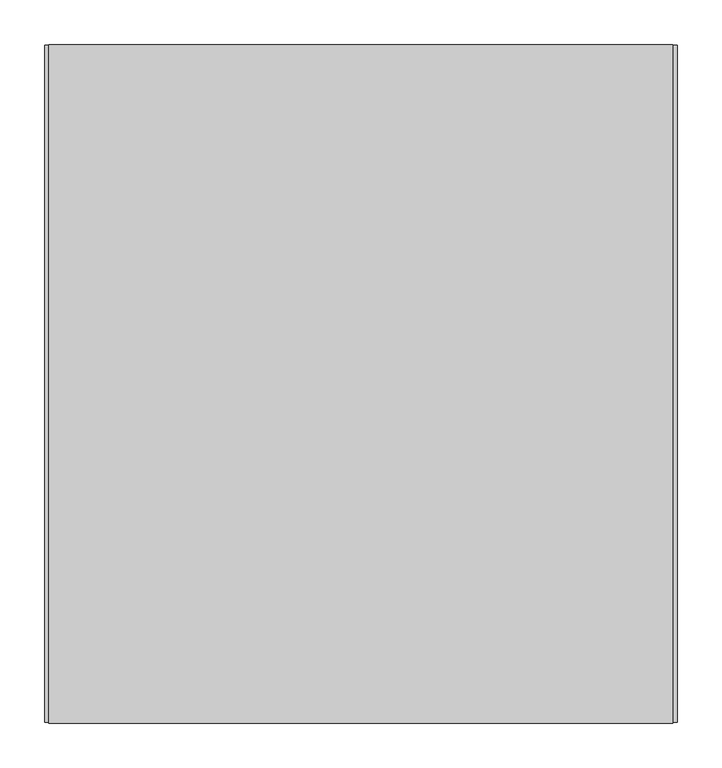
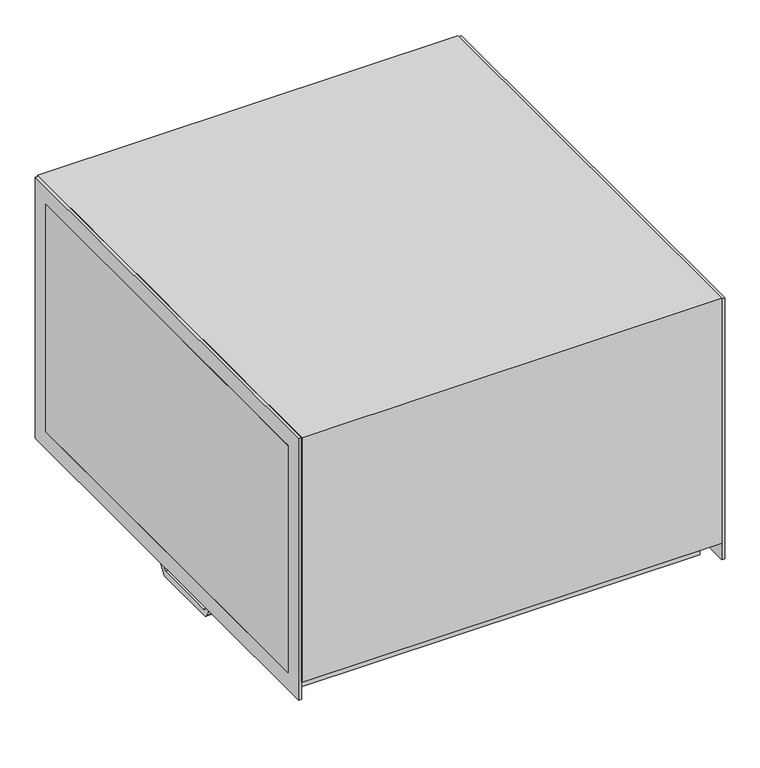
"""IFC4 building model written with IfcOpenShell, lengths in millimetres: unitary equipment geometry, VE-Wentylator-ParaForma-Harmann-DRBI-Nawiewny : 070/40/4700T."""

from ifc_helpers import new_model, si_unit, point, frame, frame_2d, origin, place, context, project, spatial, polyline, circle_curve, trimmed, segment, composite_curve, outline, extrude, faceted_brep, source, transform, mapped, element, save


def unitary_equipment_44b9685f(model_context):
    return source(origin(), model_context, "Body", "SolidModel", [
        faceted_brep([(-342.9, -346.5, -235.5), (-342.9, -346.5, -200.0), (-342.9, 349.0, -200.0), (-342.9, 349.0, -235.5), (333.3, -346.5, -235.5), (333.3, 349.0, -235.5), (333.3, 349.0, -200.0), (333.3, -346.5, -200.0), (-350.0, -381.0, -200.0), (-350.0, -381.0, 231.0), (-350.0, 381.0, 231.0), (-350.0, 381.0, -200.0), (-350.0, 350.0, -200.0), (-350.0, 350.0, 200.0), (-350.0, -350.0, 200.0), (-350.0, -350.0, -200.0), (350.0, 381.0, -200.0), (350.0, 381.0, 231.0), (350.0, -381.0, 231.0), (350.0, -381.0, -200.0), (350.0, -350.0, -200.0), (350.0, -350.0, 200.0), (350.0, 350.0, 200.0), (350.0, 350.0, -200.0), (-355.0, -350.0, -200.0), (-355.0, 350.0, -200.0), (355.0, 350.0, -200.0), (355.0, -350.0, -200.0), (-355.0, -350.0, 200.0), (-355.0, 350.0, 200.0), (355.0, 350.0, 200.0), (355.0, -350.0, 200.0)], [[[0, 1, 2, 3]], [[4, 5, 6, 7]], [[1, 0, 4, 7]], [[3, 2, 6, 5]], [[0, 3, 5, 4]], [[8, 9, 10, 11, 12, 13, 14, 15]], [[16, 17, 18, 19, 20, 21, 22, 23]], [[9, 8, 19, 18]], [[10, 9, 18, 17]], [[11, 10, 17, 16]], [[19, 8, 15, 24, 25, 12, 11, 16, 23, 26, 27, 20], [2, 1, 7, 6]], [[24, 28, 29, 25]], [[28, 24, 15, 14]], [[29, 28, 14, 13]], [[25, 29, 13, 12]], [[27, 26, 30, 31]], [[27, 31, 21, 20]], [[31, 30, 22, 21]], [[30, 26, 23, 22]]]),
        extrude(outline(polyline([(-380.0, -230.0), (-380.0, 230.0), (380.0, 230.0), (380.0, -230.0), (-380.0, -230.0)]), holes=[polyline([(-350.0, -200.0), (350.0, -200.0), (350.0, 200.0), (-350.0, 200.0), (-350.0, -200.0)])]), frame((350.0, 0.0, 0.0), z_axis=(1.0, 0.0, 0.0), x_axis=(0.0, 1.0, 0.0)), (0.0, 0.0, 1.0), 5.0),
        extrude(outline(polyline([(-380.0, -230.0), (-380.0, 230.0), (380.0, 230.0), (380.0, -230.0), (-380.0, -230.0)]), holes=[polyline([(-350.0, -200.0), (350.0, -200.0), (350.0, 200.0), (-350.0, 200.0), (-350.0, -200.0)])]), frame((-355.0, 0.0, 0.0), z_axis=(1.0, 0.0, 0.0), x_axis=(0.0, 1.0, 0.0)), (0.0, 0.0, 1.0), 5.0),
        extrude(outline(composite_curve([segment(polyline([(-85.0, -248.5), (-85.0, -235.5), (-60.0, -235.5), (-60.0, -272.5)]), True, "CONTINUOUS"), segment(trimmed(circle_curve(frame_2d((-55.0, -272.5)), 5.0), [point((-60.0, -272.5))], [point((-55.0, -277.5))], True, "CARTESIAN"), True, "CONTINUOUS"), segment(polyline([(-55.0, -277.5), (55.0, -277.5)]), True, "CONTINUOUS"), segment(trimmed(circle_curve(frame_2d((55.0, -272.5)), 5.0), [point((55.0, -277.5))], [point((60.0, -272.5))], True, "CARTESIAN"), True, "CONTINUOUS"), segment(polyline([(60.0, -272.5), (60.0, -235.5), (85.0, -235.5), (85.0, -248.5), (61.4754291, -285.1983306)]), True, "CONTINUOUS"), segment(trimmed(circle_curve(frame_2d((57.2660334, -282.5)), 5.0), [point((61.4754291, -285.1983306))], [point((57.2660334, -287.5))], False, "CARTESIAN"), True, "CONTINUOUS"), segment(polyline([(57.2660334, -287.5), (-57.2660334, -287.5)]), True, "CONTINUOUS"), segment(trimmed(circle_curve(frame_2d((-57.2660334, -282.5)), 5.0), [point((-57.2660334, -287.5))], [point((-61.4754291, -285.1983306))], False, "CARTESIAN"), True, "CONTINUOUS"), segment(polyline([(-61.4754291, -285.1983306), (-85.0, -248.5)]), True, "CONTINUOUS")], self_intersect=False)), frame((-325.3, 0.0, 0.0), z_axis=(1.0, 0.0, 0.0), x_axis=(0.0, 1.0, 0.0)), (0.0, 0.0, 1.0), 28.0),
        extrude(outline(composite_curve([segment(polyline([(320.3, -27.5), (235.3, -27.5)]), True, "CONTINUOUS"), segment(trimmed(circle_curve(frame_2d((235.3, -22.5)), 5.0), [point((235.3, -27.5))], [point((230.3, -22.5))], False, "CARTESIAN"), True, "CONTINUOUS"), segment(polyline([(230.3, -22.5), (230.3, 77.5)]), True, "CONTINUOUS"), segment(trimmed(circle_curve(frame_2d((235.3, 77.5)), 5.0), [point((230.3, 77.5))], [point((235.3, 82.5))], False, "CARTESIAN"), True, "CONTINUOUS"), segment(polyline([(235.3, 82.5), (320.3, 82.5)]), True, "CONTINUOUS"), segment(trimmed(circle_curve(frame_2d((320.3, 77.5)), 5.0), [point((320.3, 82.5))], [point((325.3, 77.5))], False, "CARTESIAN"), True, "CONTINUOUS"), segment(polyline([(325.3, 77.5), (325.3, -22.5)]), True, "CONTINUOUS"), segment(trimmed(circle_curve(frame_2d((320.3, -22.5)), 5.0), [point((325.3, -22.5))], [point((320.3, -27.5))], False, "CARTESIAN"), True, "CONTINUOUS")], self_intersect=False)), frame((0.0, 0.0, -285.0), z_axis=(0.0, 0.0, 1.0), x_axis=(1.0, 0.0, 0.0)), (0.0, 0.0, 1.0), 49.5),
    ])


if __name__ == "__main__":
    model = new_model("IFC4")
    model_context = context("Model", 3, world=origin())
    ifc_project = project(units=[si_unit("LENGTHUNIT", "METRE", prefix="MILLI")], contexts=[model_context])
    site = spatial("IfcSite", under=ifc_project)
    building = spatial("IfcBuilding", under=site)
    placement = place(None, origin())
    unitary_equipment_shape = unitary_equipment_44b9685f(model_context)
    element("IfcUnitaryEquipment", 1, ObjectType="VE-Wentylator-ParaForma-Harmann-DRBI-Nawiewny : 070/40/4700T", at=placement, inside=building, context=model_context, shape_type="MappedRepresentation", body=[
        mapped(unitary_equipment_shape, transform((0.0, 0.0, 0.0), x_axis=(1.0, 0.0, 0.0), y_axis=(0.0, 1.0, 0.0), z_axis=(0.0, 0.0, 1.0))),
    ])
    save(model, "model.ifc")
